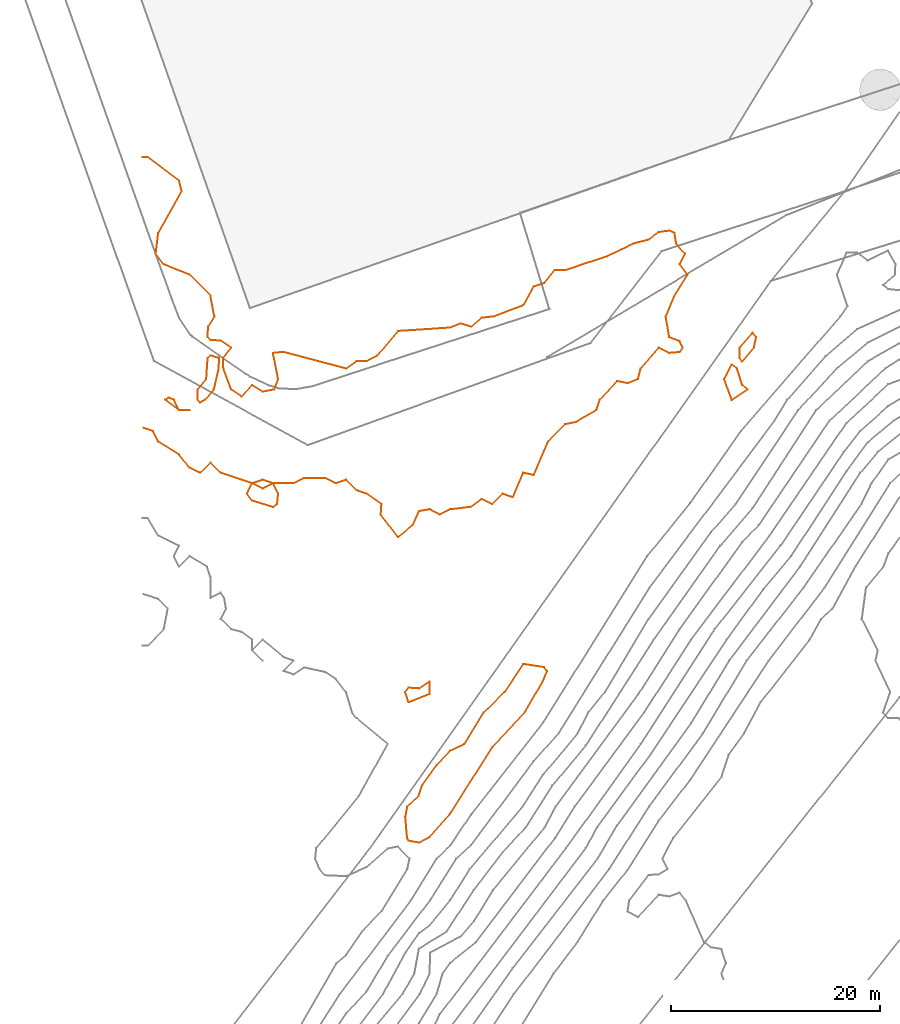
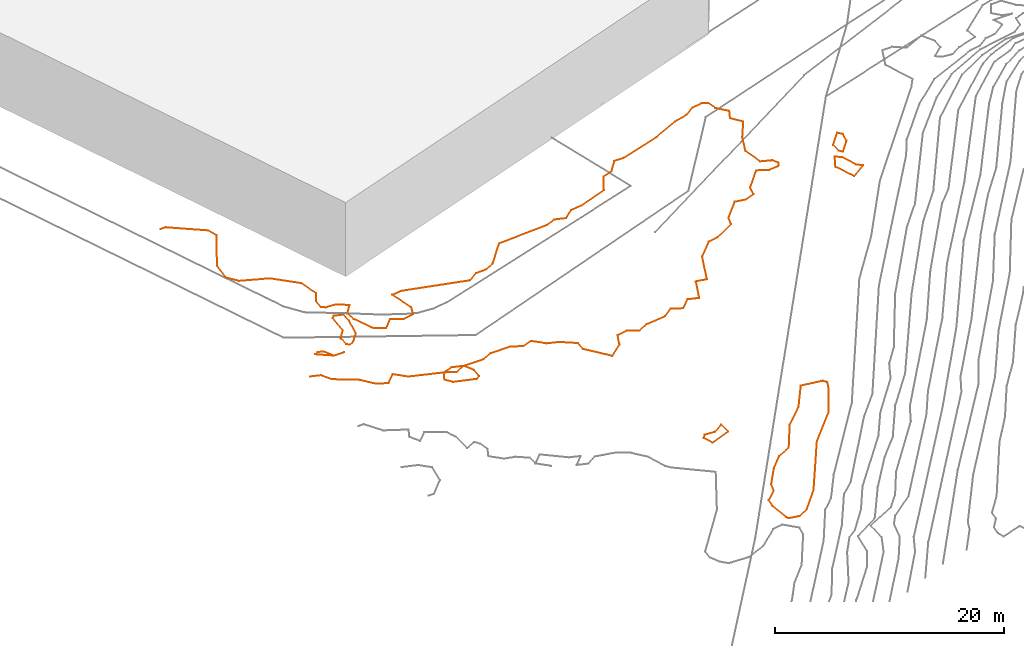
# Not in any storey, part 283 of 419: 8 proxies.
"""IFC2X3 model written with IfcOpenShell, lengths in metres."""

from ifc_helpers import new_model, entity, si_unit, frame, origin_with_axes, place, context, subcontext, project, element, save


model = new_model("IFC2X3")

# Units and contexts
model_context = context("Model", 3, precision=1e-05, world=origin_with_axes())
body_context = subcontext(model_context, "Body", "Model", "MODEL_VIEW")
ifc_project = project(units=[si_unit("AREAUNIT", "SQUARE_METRE"), si_unit("LENGTHUNIT", "METRE")], contexts=[model_context])

# Proxies
proxy_1_placement = place(None, frame((56.8420144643, 820.8976909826, 21.0), z_axis=(0.0, 0.0, 1.0), x_axis=(1.0, 0.0, 0.0)))
element("IfcBuildingElementProxy", 1, at=proxy_1_placement, Name="Contour 21.0 m", ObjectType="NOTDEFINED", context=body_context, shape_type="GeometricCurveSet", body=[
    entity("IfcGeometricCurveSet", [entity("IfcPolyline", [entity("IfcCartesianPoint", [0.2500059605, -0.333333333, 0.0]), entity("IfcCartesianPoint", [1.3653931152, 1.0, 0.0]), entity("IfcCartesianPoint", [1.583346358, 2.0, 0.0]), entity("IfcCartesianPoint", [1.2500059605, 2.4285714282, 0.0]), entity("IfcCartesianPoint", [5.9605e-06, 1.0, 0.0]), entity("IfcCartesianPoint", [0.0, 0.0, 0.0]), entity("IfcCartesianPoint", [0.2500059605, -0.333333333, 0.0])])]),
])
proxy_2_placement = place(None, frame((4.8697934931, 817.8976909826, 21.0), z_axis=(0.0, 0.0, 1.0), x_axis=(1.0, 0.0, 0.0)))
element("IfcBuildingElementProxy", 2, at=proxy_2_placement, Name="Contour 21.0 m", ObjectType="NOTDEFINED", context=body_context, shape_type="GeometricCurveSet", body=[
    entity("IfcGeometricCurveSet", [entity("IfcPolyline", [entity("IfcCartesianPoint", [0.7222769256, -1.0, 0.0]), entity("IfcCartesianPoint", [0.2222269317, -1.25, 0.0]), entity("IfcCartesianPoint", [0.0222269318, -1.0, 0.0]), entity("IfcCartesianPoint", [0.0, 0.0, 0.0]), entity("IfcCartesianPoint", [0.8222269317, 1.0, 0.0]), entity("IfcCartesianPoint", [0.9590711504, 3.0, 0.0]), entity("IfcCartesianPoint", [1.2222269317, 3.2631557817, 0.0]), entity("IfcCartesianPoint", [2.0555549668, 3.0, 0.0]), entity("IfcCartesianPoint", [2.0222269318, 2.0, 0.0]), entity("IfcCartesianPoint", [1.5555602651, 0.0, 0.0]), entity("IfcCartesianPoint", [0.7222769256, -1.0, 0.0])])]),
])
proxy_3_placement = place(None, frame((55.3586904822, 818.8976909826, 21.0), z_axis=(0.0, 0.0, 1.0), x_axis=(1.0, 0.0, 0.0)))
element("IfcBuildingElementProxy", 3, at=proxy_3_placement, Name="Contour 21.0 m", ObjectType="NOTDEFINED", context=body_context, shape_type="GeometricCurveSet", body=[
    entity("IfcGeometricCurveSet", [entity("IfcPolyline", [entity("IfcCartesianPoint", [0.7333299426, -2.0303037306, 0.0]), entity("IfcCartesianPoint", [2.2333132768, -1.0, 0.0]), entity("IfcCartesianPoint", [1.7333299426, -0.5714285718, 0.0]), entity("IfcCartesianPoint", [1.2333174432, 1.0, 0.0]), entity("IfcCartesianPoint", [0.7333299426, 1.4000076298, 0.0]), entity("IfcCartesianPoint", [0.0, 0.0, 0.0]), entity("IfcCartesianPoint", [0.7333299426, -2.0303037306, 0.0])])]),
])
proxy_4_placement = place(None, frame((1.7586870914, 816.8976909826, 21.0), z_axis=(0.0, 0.0, 1.0), x_axis=(1.0, 0.0, 0.0)))
element("IfcBuildingElementProxy", 4, at=proxy_4_placement, Name="Contour 21.0 m", ObjectType="NOTDEFINED", context=body_context, shape_type="GeometricCurveSet", body=[
    entity("IfcGeometricCurveSet", [entity("IfcPolyline", [entity("IfcCartesianPoint", [2.3333666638, -1.0, 0.0]), entity("IfcCartesianPoint", [1.3333333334, -1.0000333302, 0.0]), entity("IfcCartesianPoint", [0.0, 0.0, 0.0]), entity("IfcCartesianPoint", [0.3333333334, 0.2000000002, 0.0]), entity("IfcCartesianPoint", [0.8333833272, 0.0, 0.0]), entity("IfcCartesianPoint", [1.3333333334, -0.9999000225, 0.0]), entity("IfcCartesianPoint", [2.3333666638, -1.0, 0.0])])]),
])
proxy_5_placement = place(None, frame((9.592045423, 807.8976909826, 21.0), z_axis=(0.0, 0.0, 1.0), x_axis=(1.0, 0.0, 0.0)))
element("IfcBuildingElementProxy", 5, at=proxy_5_placement, Name="Contour 21.0 m", ObjectType="NOTDEFINED", context=body_context, shape_type="GeometricCurveSet", body=[
    entity("IfcGeometricCurveSet", [entity("IfcPolyline", [entity("IfcCartesianPoint", [2.4999750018, -1.2857220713, 0.0]), entity("IfcCartesianPoint", [2.8999750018, -1.0, 0.0]), entity("IfcCartesianPoint", [2.9999250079, 0.0, 0.0]), entity("IfcCartesianPoint", [2.4999750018, 0.9999000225, 0.0]), entity("IfcCartesianPoint", [1.4999750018, 0.4999500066, 0.0]), entity("IfcCartesianPoint", [0.4999750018, 0.9999500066, 0.0]), entity("IfcCartesianPoint", [0.0, 0.0, 0.0]), entity("IfcCartesianPoint", [0.4999750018, -0.666666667, 0.0]), entity("IfcCartesianPoint", [2.4999750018, -1.2857220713, 0.0])])]),
])
proxy_6_placement = place(None, frame((-0.4079795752, 814.2310243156, 21.0), z_axis=(0.0, 0.0, 1.0), x_axis=(1.0, 0.0, 0.0)))
element("IfcBuildingElementProxy", 6, at=proxy_6_placement, Name="Contour 21.0 m", ObjectType="NOTDEFINED", context=body_context, shape_type="GeometricCurveSet", body=[
    entity("IfcGeometricCurveSet", [entity("IfcPolyline", [entity("IfcCartesianPoint", [0.0, 0.0, 0.0]), entity("IfcCartesianPoint", [1.0000499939, -0.333333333, 0.0]), entity("IfcCartesianPoint", [1.5000249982, -1.333333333, 0.0]), entity("IfcCartesianPoint", [3.5, -2.583333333, 0.0]), entity("IfcCartesianPoint", [4.5, -3.8333083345, 0.0]), entity("IfcCartesianPoint", [5.5, -4.3332833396, 0.0]), entity("IfcCartesianPoint", [6.5, -3.3333000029, 0.0]), entity("IfcCartesianPoint", [7.5000499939, -4.333333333, 0.0]), entity("IfcCartesianPoint", [10.5, -5.3332333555, 0.0]), entity("IfcCartesianPoint", [11.5, -5.0, 0.0]), entity("IfcCartesianPoint", [12.5, -5.3333000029, 0.0]), entity("IfcCartesianPoint", [14.5, -5.3332333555, 0.0]), entity("IfcCartesianPoint", [15.5, -4.8332833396, 0.0]), entity("IfcCartesianPoint", [17.5, -4.8333083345, 0.0]), entity("IfcCartesianPoint", [18.5, -5.3332333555, 0.0]), entity("IfcCartesianPoint", [19.5, -5.0, 0.0]), entity("IfcCartesianPoint", [20.5, -6.0, 0.0]), entity("IfcCartesianPoint", [21.5, -6.3333133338, 0.0]), entity("IfcCartesianPoint", [22.9, -7.333333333, 0.0]), entity("IfcCartesianPoint", [22.8333333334, -8.333333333, 0.0]), entity("IfcCartesianPoint", [24.5, -10.5000052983, 0.0]), entity("IfcCartesianPoint", [25.9, -9.333333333, 0.0]), entity("IfcCartesianPoint", [26.5, -8.0, 0.0]), entity("IfcCartesianPoint", [27.5, -7.8332833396, 0.0]), entity("IfcCartesianPoint", [28.5, -8.3332333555, 0.0]), entity("IfcCartesianPoint", [29.5, -7.8332833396, 0.0]), entity("IfcCartesianPoint", [31.5, -7.583333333, 0.0]), entity("IfcCartesianPoint", [32.5, -6.8332833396, 0.0]), entity("IfcCartesianPoint", [33.5, -7.3332333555, 0.0]), entity("IfcCartesianPoint", [34.5, -6.3332833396, 0.0]), entity("IfcCartesianPoint", [35.5, -6.666666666, 0.0]), entity("IfcCartesianPoint", [36.4999000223, -4.333333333, 0.0]), entity("IfcCartesianPoint", [37.5, -4.5333333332, 0.0]), entity("IfcCartesianPoint", [38.8684184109, -1.333333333, 0.0]), entity("IfcCartesianPoint", [40.5, 0.3333368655, 0.0]), entity("IfcCartesianPoint", [41.5, 0.5333299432, 0.0]), entity("IfcCartesianPoint", [43.4999666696, 1.666666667, 0.0]), entity("IfcCartesianPoint", [43.8333333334, 2.666666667, 0.0]), entity("IfcCartesianPoint", [45.5, 4.4666666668, 0.0]), entity("IfcCartesianPoint", [46.5, 4.2666666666, 0.0]), entity("IfcCartesianPoint", [47.4999500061, 4.666666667, 0.0]), entity("IfcCartesianPoint", [47.75, 5.666666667, 0.0]), entity("IfcCartesianPoint", [49.4999666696, 7.666666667, 0.0]), entity("IfcCartesianPoint", [50.5, 7.1667166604, 0.0]), entity("IfcCartesianPoint", [51.5, 7.2500026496, 0.0]), entity("IfcCartesianPoint", [51.7941130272, 7.666666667, 0.0]), entity("IfcCartesianPoint", [51.5, 8.2916577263, 0.0]), entity("IfcCartesianPoint", [50.5, 8.6665666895, 0.0]), entity("IfcCartesianPoint", [50.1666666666, 10.666666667, 0.0]), entity("IfcCartesianPoint", [50.9999916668, 12.666666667, 0.0]), entity("IfcCartesianPoint", [52.25, 14.666666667, 0.0]), entity("IfcCartesianPoint", [51.4999666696, 15.666666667, 0.0]), entity("IfcCartesianPoint", [51.9999500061, 16.666666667, 0.0]), entity("IfcCartesianPoint", [51.1666666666, 17.666666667, 0.0]), entity("IfcCartesianPoint", [50.9999750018, 18.666666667, 0.0]), entity("IfcCartesianPoint", [50.5, 18.8888935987, 0.0]), entity("IfcCartesianPoint", [49.5, 18.7500013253, 0.0]), entity("IfcCartesianPoint", [48.5, 18.0303093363, 0.0]), entity("IfcCartesianPoint", [47.1, 17.666666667, 0.0]), entity("IfcCartesianPoint", [44.5, 16.416662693, 0.0]), entity("IfcCartesianPoint", [40.5, 15.0952380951, 0.0]), entity("IfcCartesianPoint", [39.5, 15.1111099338, 0.0]), entity("IfcCartesianPoint", [38.5, 13.8666704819, 0.0]), entity("IfcCartesianPoint", [37.5, 13.5238056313, 0.0]), entity("IfcCartesianPoint", [36.5, 11.7291681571, 0.0]), entity("IfcCartesianPoint", [33.6428610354, 10.666666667, 0.0]), entity("IfcCartesianPoint", [32.5, 10.5333299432, 0.0]), entity("IfcCartesianPoint", [31.5, 9.6666619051, 0.0]), entity("IfcCartesianPoint", [30.5, 10.000007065, 0.0]), entity("IfcCartesianPoint", [29.5, 9.5952361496, 0.0]), entity("IfcCartesianPoint", [24.5, 9.2666590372, 0.0]), entity("IfcCartesianPoint", [22.5, 6.8888935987, 0.0]), entity("IfcCartesianPoint", [21.5, 6.3809445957, 0.0]), entity("IfcCartesianPoint", [20.5, 6.3666609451, 0.0]), entity("IfcCartesianPoint", [19.5, 5.6666523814, 0.0]), entity("IfcCartesianPoint", [13.5, 7.2666666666, 0.0]), entity("IfcCartesianPoint", [12.5, 7.1666166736, 0.0]), entity("IfcCartesianPoint", [13.0000083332, 4.666666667, 0.0]), entity("IfcCartesianPoint", [12.6111134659, 3.666666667, 0.0]), entity("IfcCartesianPoint", [11.5, 3.4444397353, 0.0]), entity("IfcCartesianPoint", [10.5, 4.0666666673, 0.0]), entity("IfcCartesianPoint", [9.5, 3.0, 0.0]), entity("IfcCartesianPoint", [8.5, 3.6665666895, 0.0]), entity("IfcCartesianPoint", [7.75, 5.666666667, 0.0]), entity("IfcCartesianPoint", [7.7, 6.666666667, 0.0]), entity("IfcCartesianPoint", [8.4999923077, 7.666666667, 0.0]), entity("IfcCartesianPoint", [7.5, 8.3508777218, 0.0]), entity("IfcCartesianPoint", [6.5, 8.4035108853, 0.0]), entity("IfcCartesianPoint", [6.2222239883, 8.666666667, 0.0]), entity("IfcCartesianPoint", [6.2857113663, 9.666666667, 0.0]), entity("IfcCartesianPoint", [6.8846119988, 10.666666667, 0.0]), entity("IfcCartesianPoint", [6.5, 12.6666333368, 0.0]), entity("IfcCartesianPoint", [4.4999666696, 14.666666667, 0.0]), entity("IfcCartesianPoint", [1.9999500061, 15.666666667, 0.0]), entity("IfcCartesianPoint", [1.25, 16.666666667, 0.0]), entity("IfcCartesianPoint", [1.4999888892, 18.666666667, 0.0]), entity("IfcCartesianPoint", [3.7500039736, 22.666666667, 0.0]), entity("IfcCartesianPoint", [3.4999800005, 23.666666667, 0.0]), entity("IfcCartesianPoint", [0.5, 25.9523848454, 0.0]), entity("IfcCartesianPoint", [0.0, 25.9523848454, 0.0])])]),
])
proxy_7_placement = place(None, frame((24.7586870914, 788.8976909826, 21.0), z_axis=(0.0, 0.0, 1.0), x_axis=(1.0, 0.0, 0.0)))
element("IfcBuildingElementProxy", 7, at=proxy_7_placement, Name="Contour 21.0 m", ObjectType="NOTDEFINED", context=body_context, shape_type="GeometricCurveSet", body=[
    entity("IfcGeometricCurveSet", [entity("IfcPolyline", [entity("IfcCartesianPoint", [2.3333333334, -0.2000000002, 0.0]), entity("IfcCartesianPoint", [2.3333333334, 0.9999000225, 0.0]), entity("IfcCartesianPoint", [1.3333333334, 0.333333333, 0.0]), entity("IfcCartesianPoint", [0.3333333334, 0.4000000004, 0.0]), entity("IfcCartesianPoint", [0.0, 0.0, 0.0]), entity("IfcCartesianPoint", [0.3333333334, -0.9999500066, 0.0]), entity("IfcCartesianPoint", [2.3333333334, -0.2000000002, 0.0])])]),
])
proxy_8_placement = place(None, frame((24.7816760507, 776.8976909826, 21.0), z_axis=(0.0, 0.0, 1.0), x_axis=(1.0, 0.0, 0.0)))
element("IfcBuildingElementProxy", 8, at=proxy_8_placement, Name="Contour 21.0 m", ObjectType="NOTDEFINED", context=body_context, shape_type="GeometricCurveSet", body=[
    entity("IfcGeometricCurveSet", [entity("IfcPolyline", [entity("IfcCartesianPoint", [1.310344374, -2.4642847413, 0.0]), entity("IfcCartesianPoint", [2.310344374, -1.9259243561, 0.0]), entity("IfcCartesianPoint", [4.310344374, 0.3199996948, 0.0]), entity("IfcCartesianPoint", [8.310344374, 6.666666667, 0.0]), entity("IfcCartesianPoint", [11.431558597, 10.0, 0.0]), entity("IfcCartesianPoint", [13.1674843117, 13.0, 0.0]), entity("IfcCartesianPoint", [13.5903431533, 14.0, 0.0]), entity("IfcCartesianPoint", [13.310344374, 14.3684184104, 0.0]), entity("IfcCartesianPoint", [11.310344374, 14.6756741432, 0.0]), entity("IfcCartesianPoint", [9.5411169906, 12.0, 0.0]), entity("IfcCartesianPoint", [7.4978488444, 10.0, 0.0]), entity("IfcCartesianPoint", [5.6632822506, 7.0, 0.0]), entity("IfcCartesianPoint", [4.310344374, 6.3461541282, 0.0]), entity("IfcCartesianPoint", [3.0162313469, 5.0, 0.0]), entity("IfcCartesianPoint", [1.5915951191, 3.0, 0.0]), entity("IfcCartesianPoint", [1.2648886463, 2.0, 0.0]), entity("IfcCartesianPoint", [0.1949572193, 1.0, 0.0]), entity("IfcCartesianPoint", [0.0, 0.0, 0.0]), entity("IfcCartesianPoint", [0.1799074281, -2.0, 0.0]), entity("IfcCartesianPoint", [0.310344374, -2.2727320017, 0.0]), entity("IfcCartesianPoint", [1.310344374, -2.4642847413, 0.0])])]),
])

save(model, "model.ifc")
